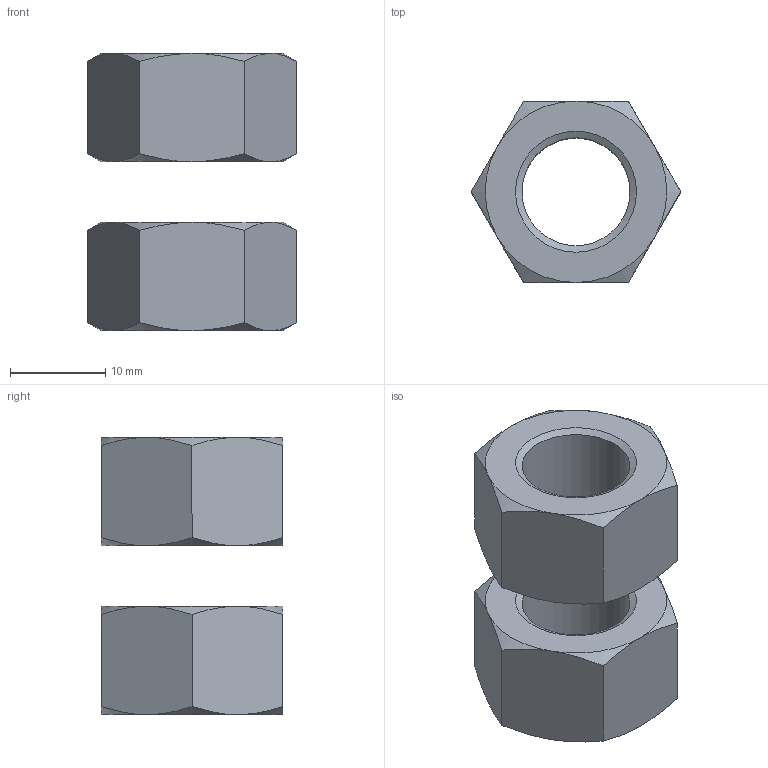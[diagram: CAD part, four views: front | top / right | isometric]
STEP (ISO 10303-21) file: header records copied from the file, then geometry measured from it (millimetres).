
FILE_DESCRIPTION(/* description */ (''),/* implementation_level */ '2;1');
FILE_NAME(/* name */ 'F:\GH SERIES\GH-750-X-XXXX\GH-750-X-1000\GH-750-X-1000 ASS''Y.iam.stp',/* time_stamp */ '2021-11-17T12:41:05-05:00',/* author */ ('Justin'),/* organization */ (''),/* preprocessor_version */ 'ST-DEVELOPER v18.1',/* originating_system */ 'Autodesk Inventor 2022',/* authorisation */ '');
FILE_SCHEMA (('AUTOMOTIVE_DESIGN { 1 0 10303 214 3 1 1 }'));
Length unit declared in the file: inch
Products named in the file (2): GH-750-D-1000 ASS'Y; AS 2465 - 1/2  UNF
Assembly tree (2 placements, depth 2):
  GH-750-D-1000 ASS'Y
    AS 2465 - 1/2  UNF  x2
Bounding box: 22 x 19.05 x 29.11 mm (x, y, z)
Volume: 4808.5 mm3; surface area: 3066.4 mm2
Topology: 2 solids, 2 shells, 46 faces, 100 edges, 58 vertices
Faces by surface type: cone 28, plane 16, cylinder 2
Full cylindrical faces by diameter (mm): 11.328 x2
Entity records: 676 total; most frequent: CARTESIAN_POINT 154, ORIENTED_EDGE 100, DIRECTION 97, EDGE_CURVE 50, AXIS2_PLACEMENT_3D 44, VERTEX_POINT 29, EDGE_LOOP 25, FACE_OUTER_BOUND 23
